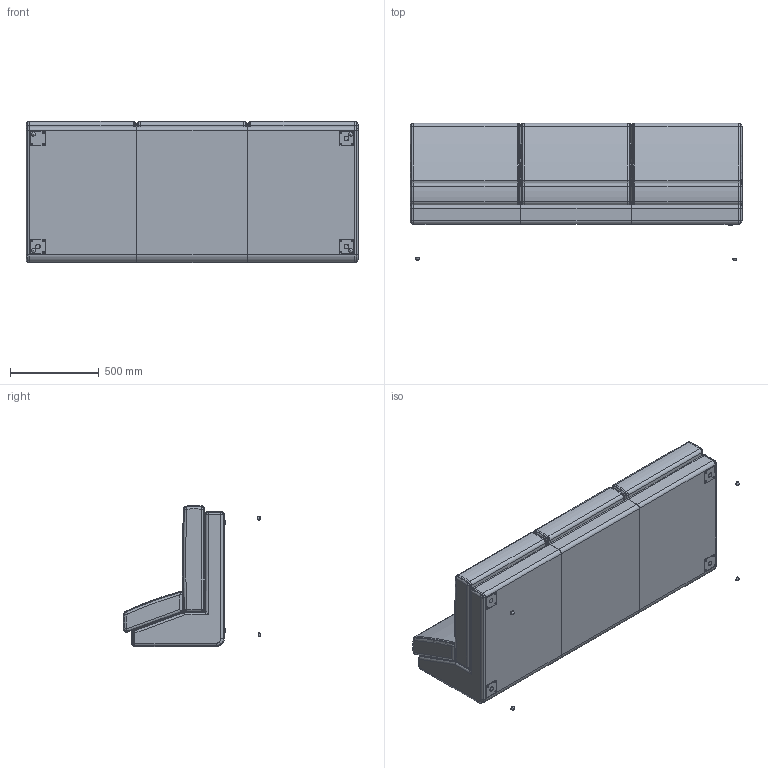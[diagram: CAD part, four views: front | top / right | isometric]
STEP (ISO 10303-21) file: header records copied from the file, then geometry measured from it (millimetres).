
FILE_DESCRIPTION(/* description */ (''),/* implementation_level */ '2;1');
FILE_NAME(/* name */ '9103.step',/* time_stamp */ '2026-07-29T13:59:40-07:00',/* author */ (''),/* organization */ (''),/* preprocessor_version */ 'ST-DEVELOPER v20.1',/* originating_system */ 'Autodesk Translation Framework v15.8.0.0',/* authorisation */ '');
FILE_SCHEMA (('AUTOMOTIVE_DESIGN { 1 0 10303 214 3 1 1 }'));
Length unit declared in the file: inch
Products named in the file (1): 2026-06-05-14-04-39-452
Bounding box: 1866.9 x 775.12 x 793.38 mm (x, y, z)
Volume: 490228897.6 mm3; surface area: 12631874.5 mm2
Topology: 38 solids, 38 shells, 901 faces, 1939 edges, 1102 vertices
Faces by surface type: cylinder 313, torus 262, plane 136, bspline 108, sphere 74, cone 8
Full cylindrical faces by diameter (mm): 9.525 x12
Entity records: 28343 total; most frequent: CARTESIAN_POINT 8573, DIRECTION 4589, ORIENTED_EDGE 3854, AXIS2_PLACEMENT_3D 2022, EDGE_CURVE 1927, CIRCLE 1176, VERTEX_POINT 1102, EDGE_LOOP 933
